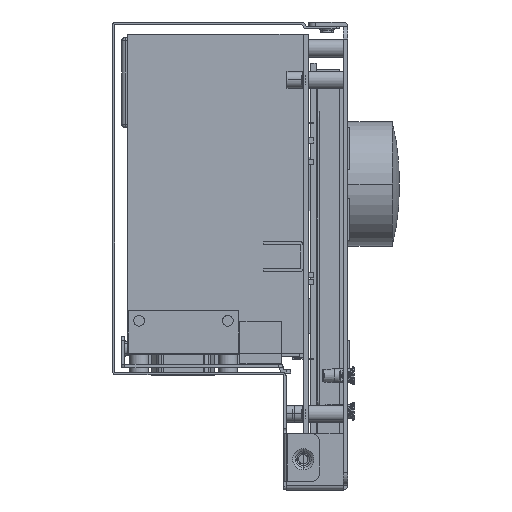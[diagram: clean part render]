
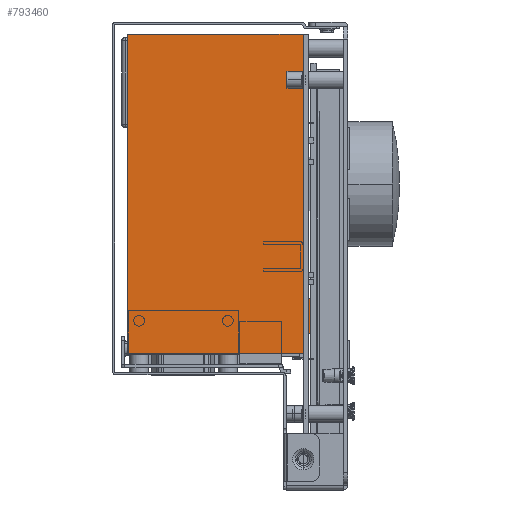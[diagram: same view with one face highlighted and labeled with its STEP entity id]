
A CAD part, left-side view. The second image highlights one B-rep face of the part: STEP entity #793460.
In plain terms, the highlighted planar face has unit normal (-1, 0, 0) as drawn and (0, -1, 0) by its records, which use the part's own axes.
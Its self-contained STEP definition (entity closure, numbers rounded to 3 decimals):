
#789720=CARTESIAN_POINT('',(49.5,-1.6,0.));
#789730=VERTEX_POINT('',#789720);
#789760=CARTESIAN_POINT('',(0.,-1.6,0.));
#789770=DIRECTION('',(1.,0.,0.));
#789780=VECTOR('',#789770,1.);
#789790=LINE('',#789760,#789780);
#789800=CARTESIAN_POINT('',(0.,-1.6,0.));
#789810=VERTEX_POINT('',#789800);
#789820=EDGE_CURVE('',#789810,#789730,#789790,.T.);
#791510=CARTESIAN_POINT('',(49.5,-1.6,-90.));
#791520=VERTEX_POINT('',#791510);
#791550=CARTESIAN_POINT('',(49.5,-1.6,-90.));
#791560=DIRECTION('',(0.,0.,1.));
#791570=VECTOR('',#791560,1.);
#791580=LINE('',#791550,#791570);
#791590=EDGE_CURVE('',#791520,#789730,#791580,.T.);
#791820=CARTESIAN_POINT('',(0.,-1.6,-90.));
#791830=VERTEX_POINT('',#791820);
#791860=CARTESIAN_POINT('',(49.5,-1.6,-90.));
#791870=DIRECTION('',(-1.,0.,0.));
#791880=VECTOR('',#791870,1.);
#791890=LINE('',#791860,#791880);
#791900=EDGE_CURVE('',#791520,#791830,#791890,.T.);
#792130=CARTESIAN_POINT('',(0.,-1.6,-15.5));
#792140=VERTEX_POINT('',#792130);
#792170=CARTESIAN_POINT('',(0.,-1.6,-90.));
#792180=DIRECTION('',(0.,0.,1.));
#792190=VECTOR('',#792180,1.);
#792200=LINE('',#792170,#792190);
#792210=EDGE_CURVE('',#791830,#792140,#792200,.T.);
#792450=CARTESIAN_POINT('',(-2.,-1.6,-15.5));
#792460=VERTEX_POINT('',#792450);
#792490=CARTESIAN_POINT('',(-2.,-1.6,-15.5));
#792500=DIRECTION('',(1.,0.,0.));
#792510=VECTOR('',#792500,1.);
#792520=LINE('',#792490,#792510);
#792530=EDGE_CURVE('',#792460,#792140,#792520,.T.);
#792640=CARTESIAN_POINT('',(-2.,-1.6,-5.5));
#792650=DIRECTION('',(0.,0.,-1.));
#792660=VECTOR('',#792650,1.);
#792670=LINE('',#792640,#792660);
#792680=CARTESIAN_POINT('',(-2.,-1.6,-5.5));
#792690=VERTEX_POINT('',#792680);
#792700=EDGE_CURVE('',#792690,#792460,#792670,.T.);
#792880=CARTESIAN_POINT('',(-2.,-1.6,-5.5));
#792890=DIRECTION('',(1.,0.,0.));
#792900=VECTOR('',#792890,1.);
#792910=LINE('',#792880,#792900);
#792920=CARTESIAN_POINT('',(0.,-1.6,-5.5));
#792930=VERTEX_POINT('',#792920);
#792940=EDGE_CURVE('',#792690,#792930,#792910,.T.);
#793140=CARTESIAN_POINT('',(0.,-1.6,-5.5));
#793150=DIRECTION('',(0.,0.,1.));
#793160=VECTOR('',#793150,1.);
#793170=LINE('',#793140,#793160);
#793180=EDGE_CURVE('',#792930,#789810,#793170,.T.);
#793310=CARTESIAN_POINT('',(0.,-1.6,0.));
#793320=DIRECTION('',(0.,1.,0.));
#793330=DIRECTION('',(1.,0.,0.));
#793340=AXIS2_PLACEMENT_3D('',#793310,#793320,#793330);
#793350=PLANE('',#793340);
#793360=ORIENTED_EDGE('',*,*,#791590,.T.);
#793370=ORIENTED_EDGE('',*,*,#791900,.F.);
#793380=ORIENTED_EDGE('',*,*,#792210,.F.);
#793390=ORIENTED_EDGE('',*,*,#792530,.T.);
#793400=ORIENTED_EDGE('',*,*,#792700,.T.);
#793410=ORIENTED_EDGE('',*,*,#792940,.F.);
#793420=ORIENTED_EDGE('',*,*,#793180,.F.);
#793430=ORIENTED_EDGE('',*,*,#789820,.F.);
#793440=EDGE_LOOP('',(#793430,#793420,#793410,#793400,#793390,#793380,
#793370,#793360));
#793450=FACE_OUTER_BOUND('',#793440,.T.);
#793460=ADVANCED_FACE('',(#793450),#793350,.F.);
